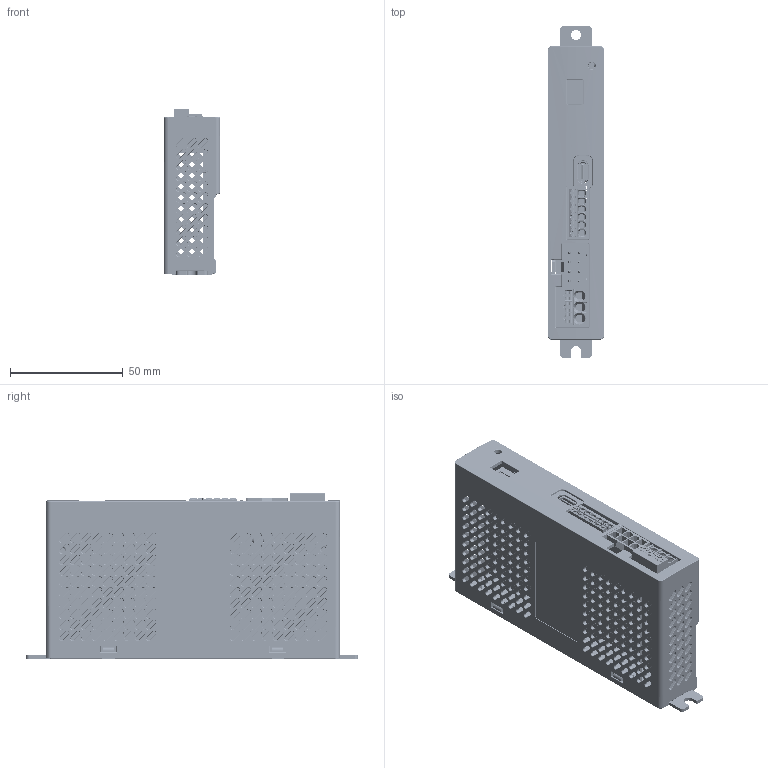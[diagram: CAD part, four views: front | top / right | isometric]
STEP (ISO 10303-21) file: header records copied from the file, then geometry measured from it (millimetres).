
FILE_DESCRIPTION (( 'STEP AP203' ), '1' );
FILE_NAME ('A1899.step', '2024-04-24T08:56:37', ( '' ), ( '' ), 'SwSTEP 2.0', 'SolidWorks 2023', '' );
FILE_SCHEMA (( 'CONFIG_CONTROL_DESIGN' ));
Length unit declared in the file: millimetre
Products named in the file (1): A1899
Bounding box: 25 x 147 x 73.1 mm (x, y, z)
Volume: 58274.9 mm3; surface area: 84187.3 mm2
Topology: 1 solids, 1 shells, 7155 faces, 19299 edges, 12107 vertices
Faces by surface type: plane 3375, cylinder 2197, torus 789, bspline 677, cone 101, sphere 16
Entity records: 264981 total; most frequent: CARTESIAN_POINT 90373, ORIENTED_EDGE 38458, DIRECTION 34145, EDGE_CURVE 19229, VERTEX_POINT 12105, VECTOR 11797, LINE 11797, AXIS2_PLACEMENT_3D 11174
